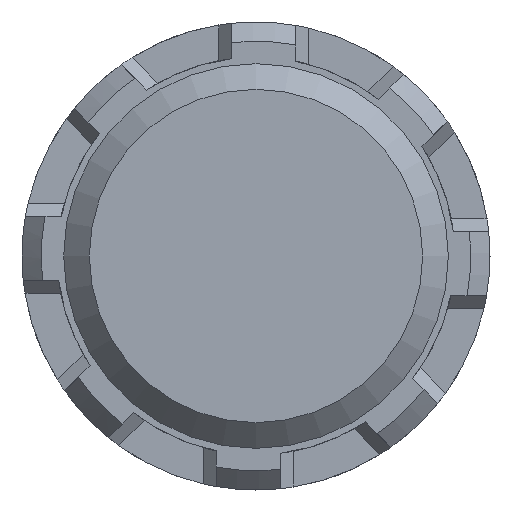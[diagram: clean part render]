
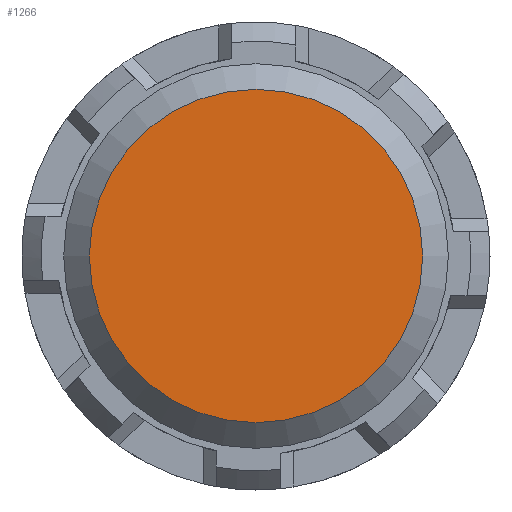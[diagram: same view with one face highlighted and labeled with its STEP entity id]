
A CAD part, front view. The second image highlights one B-rep face of the part: STEP entity #1266.
In plain terms, the highlighted planar face has unit normal (0, -1, 0).
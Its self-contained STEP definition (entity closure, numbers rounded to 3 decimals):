
#99=CIRCLE('',#1431,1.3);
#173=FACE_OUTER_BOUND('',#241,.T.);
#241=EDGE_LOOP('',(#1093));
#572=VERTEX_POINT('',#2238);
#757=EDGE_CURVE('',#572,#572,#99,.T.);
#1093=ORIENTED_EDGE('',*,*,#757,.F.);
#1205=PLANE('',#1434);
#1266=ADVANCED_FACE('',(#173),#1205,.T.);
#1431=AXIS2_PLACEMENT_3D('',#2239,#1804,#1805);
#1434=AXIS2_PLACEMENT_3D('',#2245,#1811,#1812);
#1804=DIRECTION('center_axis',(0.,1.,0.));
#1805=DIRECTION('ref_axis',(-1.,0.,0.));
#1811=DIRECTION('center_axis',(0.,-1.,0.));
#1812=DIRECTION('ref_axis',(0.,0.,-1.));
#2238=CARTESIAN_POINT('',(1.3,0.,0.));
#2239=CARTESIAN_POINT('Origin',(0.,0.,0.));
#2245=CARTESIAN_POINT('Origin',(0.,0.,0.));
